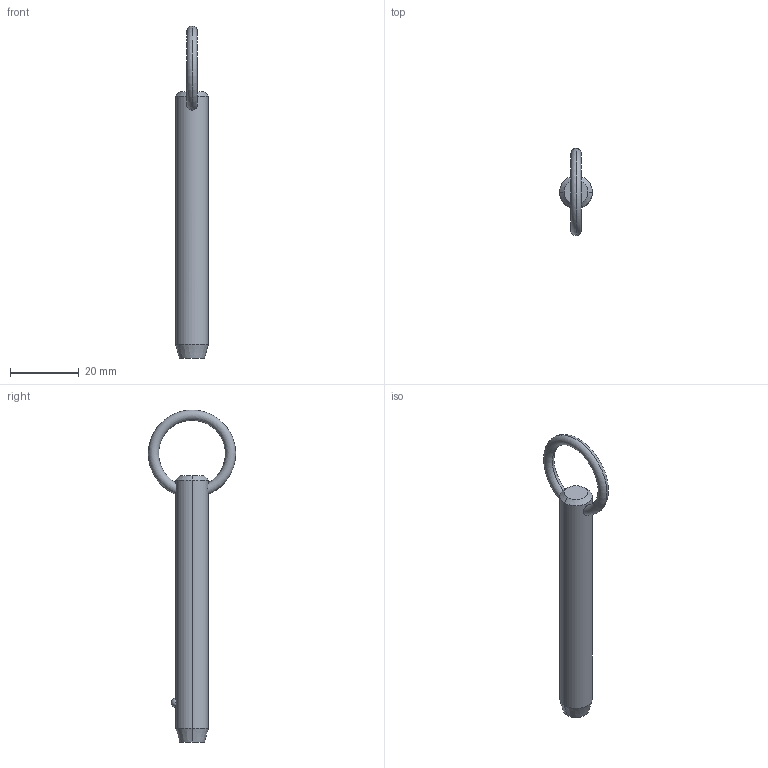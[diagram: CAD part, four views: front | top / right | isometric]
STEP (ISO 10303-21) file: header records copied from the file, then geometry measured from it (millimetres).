
FILE_DESCRIPTION (( 'STEP AP203' ), '1' );
FILE_NAME ('P1250.037-230.step', '2019-07-29T20:02:09', ( '' ), ( '' ), 'SwSTEP 2.0', 'SolidWorks 2017', '' );
FILE_SCHEMA (( 'CONFIG_CONTROL_DESIGN' ));
Length unit declared in the file: millimetre
Products named in the file (1): P1250.037-230
Bounding box: 9.52 x 25.39 x 96.5 mm (x, y, z)
Volume: 5864.1 mm3; surface area: 2958.6 mm2
Topology: 1 solids, 1 shells, 12 faces, 28 edges, 17 vertices
Faces by surface type: cone 4, torus 2, sphere 2, cylinder 2, plane 2
Entity records: 523 total; most frequent: CARTESIAN_POINT 190, DIRECTION 56, ORIENTED_EDGE 48, AXIS2_PLACEMENT_3D 25, EDGE_CURVE 24, EDGE_LOOP 15, VERTEX_POINT 15, FACE_OUTER_BOUND 12
